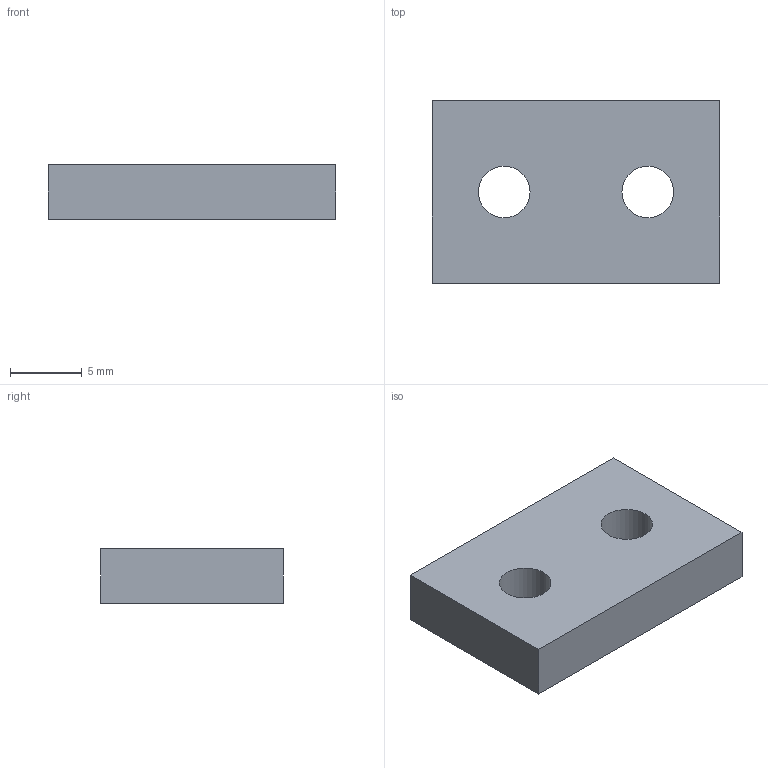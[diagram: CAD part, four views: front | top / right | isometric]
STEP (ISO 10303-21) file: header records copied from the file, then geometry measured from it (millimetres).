
FILE_DESCRIPTION(('FreeCAD Model'),'2;1');
FILE_NAME('Open CASCADE Shape Model','2026-11-06T11:24:15',('FreeCAD'),( 'FreeCAD'),'Open CASCADE STEP processor 7.8','FreeCAD','Unknown');
FILE_SCHEMA(('AUTOMOTIVE_DESIGN { 1 0 10303 214 1 1 1 1 }'));
Length unit declared in the file: millimetre
Products named in the file (1): Open CASCADE STEP translator 7.8 15
Bounding box: 20 x 12.7 x 3.8 mm (x, y, z)
Volume: 887.8 mm3; surface area: 801.8 mm2
Topology: 1 solids, 1 shells, 8 faces, 18 edges, 12 vertices
Faces by surface type: plane 6, cylinder 2
Full cylindrical faces by diameter (mm): 3.6 x2
Entity records: 244 total; most frequent: DIRECTION 40, CARTESIAN_POINT 39, ORIENTED_EDGE 36, EDGE_CURVE 18, LINE 14, VECTOR 14, AXIS2_PLACEMENT_3D 13, FACE_BOUND 12
